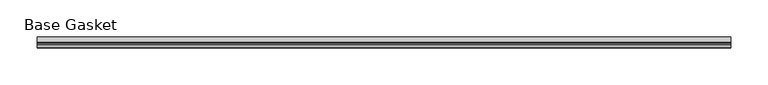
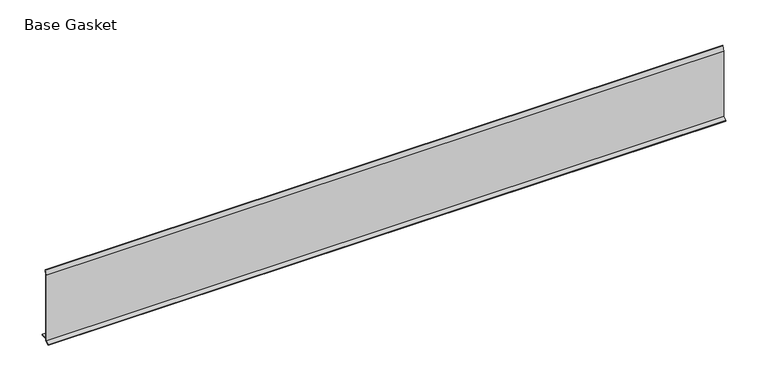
"""IFC4 building model written with IfcOpenShell, lengths in millimetres: furniture geometry, Gasket-Teknion-FHGB-AI_Healthcare-R2021 : Base Gasket."""

from ifc_helpers import new_model, si_unit, frame, origin, place, context, project, spatial, polyline, outline, extrude, source, transform, mapped, element, save


def base_gasket_43fadf00(model_context):
    return source(origin(), model_context, "Body", "SweptSolid", [
        extrude(outline(polyline([(-3.7283812, 98.4568417), (-1.1891543, 104.587663), (-0.6755308, 105.2002997), (-0.6755308, 104.4162708), (-2.2043812, 98.4568417), (-2.2043812, 96.8693477), (-1.4106313, 96.8693477), (-1.4106313, 71.4693447), (-2.2043812, 71.4693447), (-2.2043812, 7.9398773), (6.2405171, 7.9398773), (6.2405171, 6.3818476), (-2.1334222, 6.3818476), (-2.2043812, 4.3498477), (-6.8281054, 0.3520979), (-7.8482342, 0.0), (-7.4222115, 0.6560174), (-3.7283812, 4.3498477), (-3.7283812, 98.4568417)])), frame((-1527.8982117, 0.0, 0.0), z_axis=(1.0, 0.0, 0.0), x_axis=(0.0, 1.0, 0.0)), (0.0, 0.0, 1.0), 925.1316603),
    ])


if __name__ == "__main__":
    model = new_model("IFC4")
    model_context = context("Model", 3, world=origin())
    ifc_project = project(units=[si_unit("LENGTHUNIT", "METRE", prefix="MILLI")], contexts=[model_context])
    site = spatial("IfcSite", under=ifc_project)
    building = spatial("IfcBuilding", under=site)
    placement = place(None, origin())
    base_gasket_shape = base_gasket_43fadf00(model_context)
    element("IfcFurniture", 1, ObjectType="Gasket-Teknion-FHGB-AI_Healthcare-R2021 : Base Gasket", at=placement, inside=building, context=model_context, shape_type="MappedRepresentation", body=[
        mapped(base_gasket_shape, transform((0.0, 0.0, 0.0), x_axis=(1.0, 0.0, 0.0), y_axis=(0.0, 1.0, 0.0), z_axis=(0.0, 0.0, 1.0))),
    ])
    save(model, "model.ifc")
